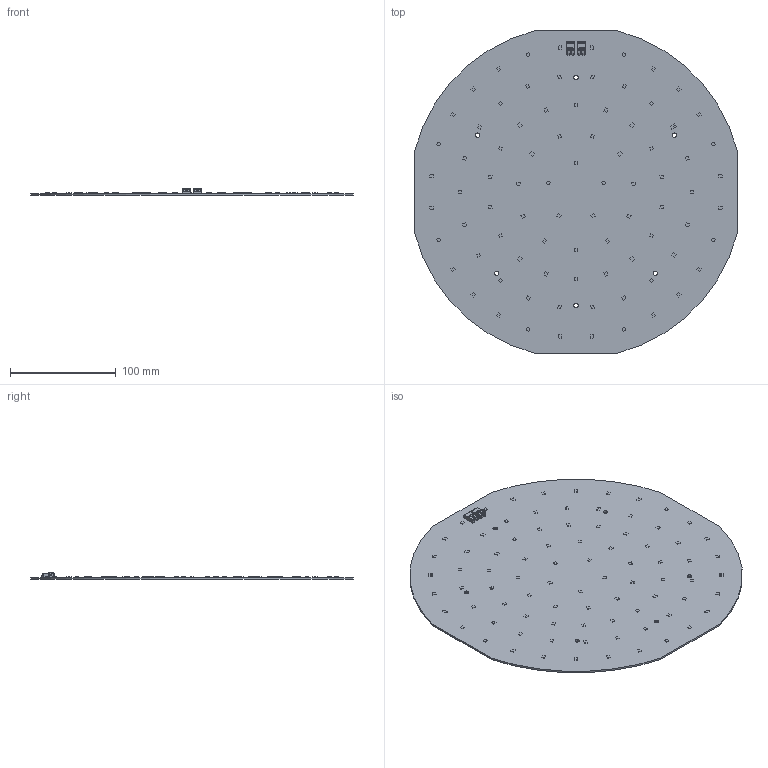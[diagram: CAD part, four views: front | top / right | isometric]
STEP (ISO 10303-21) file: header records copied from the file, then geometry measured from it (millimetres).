
FILE_DESCRIPTION((''),'2;1');
FILE_NAME('16208892_CLE-315-EM-ADV5','2021-11-04T13:39:14',('Bernhard.Fink'),(''),'CREO PARAMETRIC BY PTC INC, 2019164','CREO PARAMETRIC BY PTC INC, 2019164','');
FILE_SCHEMA(('CONFIG_CONTROL_DESIGN'));
Length unit declared in the file: millimetre
Products named in the file (1): 16208892_CLE-315-EM-ADV5
Bounding box: 305 x 305 x 6.15 mm (x, y, z)
Volume: 127690.9 mm3; surface area: 156964.9 mm2
Topology: 1 solids, 1 shells, 809 faces, 2134 edges, 1420 vertices
Faces by surface type: plane 681, cylinder 124, sphere 4
Entity records: 26871 total; most frequent: CARTESIAN_POINT 6526, ORIENTED_EDGE 4268, DIRECTION 3972, EDGE_CURVE 2134, VECTOR 1830, LINE 1830, VERTEX_POINT 1420, AXIS2_PLACEMENT_3D 1071
